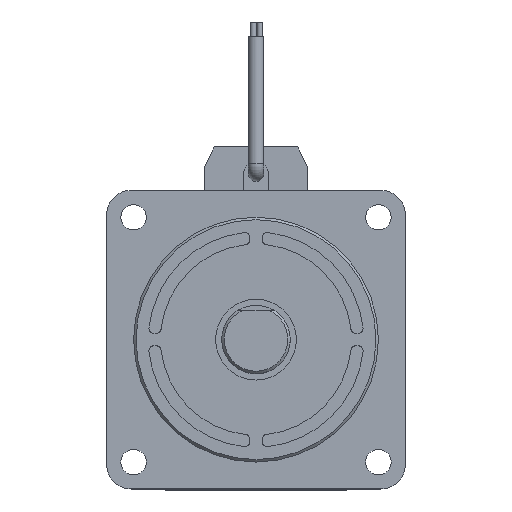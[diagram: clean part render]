
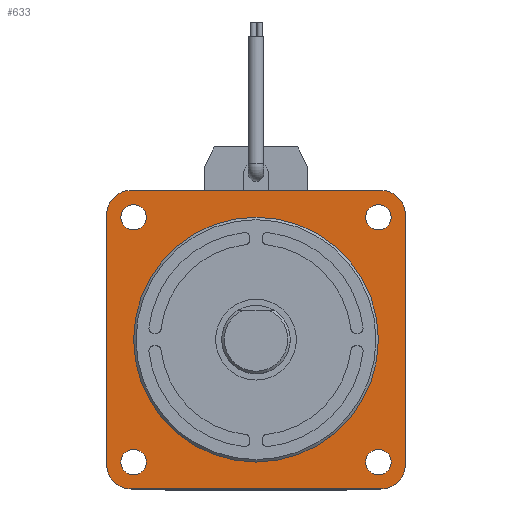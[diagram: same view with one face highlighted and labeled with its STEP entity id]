
A CAD part, top view. The second image highlights one B-rep face of the part: STEP entity #633.
In plain terms, the highlighted planar face has unit normal (0, 0, 1).
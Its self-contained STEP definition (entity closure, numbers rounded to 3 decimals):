
#136=FACE_BOUND('',#1144,.T.);
#137=FACE_BOUND('',#1145,.T.);
#138=FACE_BOUND('',#1146,.T.);
#139=FACE_BOUND('',#1147,.T.);
#140=FACE_BOUND('',#1148,.T.);
#141=FACE_BOUND('',#1149,.T.);
#417=CIRCLE('',#4051,5.);
#418=CIRCLE('',#4053,5.);
#419=CIRCLE('',#4055,5.);
#420=CIRCLE('',#4057,5.);
#421=CIRCLE('',#4059,2.6);
#422=CIRCLE('',#4060,2.6);
#423=CIRCLE('',#4061,2.6);
#424=CIRCLE('',#4062,2.6);
#425=CIRCLE('',#4063,25.);
#633=ADVANCED_FACE('',(#136,#137,#138,#139,#140,#141),#793,.T.);
#793=PLANE('',#4064);
#1144=EDGE_LOOP('',(#1904));
#1145=EDGE_LOOP('',(#1905));
#1146=EDGE_LOOP('',(#1906));
#1147=EDGE_LOOP('',(#1907));
#1148=EDGE_LOOP('',(#1908));
#1149=EDGE_LOOP('',(#1909,#1910,#1911,#1912,#1913,#1914,#1915,#1916));
#1904=ORIENTED_EDGE('',*,*,#2996,.F.);
#1905=ORIENTED_EDGE('',*,*,#2997,.F.);
#1906=ORIENTED_EDGE('',*,*,#2998,.F.);
#1907=ORIENTED_EDGE('',*,*,#2999,.F.);
#1908=ORIENTED_EDGE('',*,*,#3000,.F.);
#1909=ORIENTED_EDGE('',*,*,#2934,.T.);
#1910=ORIENTED_EDGE('',*,*,#2992,.T.);
#1911=ORIENTED_EDGE('',*,*,#2950,.T.);
#1912=ORIENTED_EDGE('',*,*,#2993,.T.);
#1913=ORIENTED_EDGE('',*,*,#2965,.T.);
#1914=ORIENTED_EDGE('',*,*,#2994,.T.);
#1915=ORIENTED_EDGE('',*,*,#2980,.T.);
#1916=ORIENTED_EDGE('',*,*,#2995,.T.);
#2493=VERTEX_POINT('',#5939);
#2494=VERTEX_POINT('',#5941);
#2502=VERTEX_POINT('',#5970);
#2503=VERTEX_POINT('',#5972);
#2510=VERTEX_POINT('',#5999);
#2511=VERTEX_POINT('',#6001);
#2518=VERTEX_POINT('',#6028);
#2519=VERTEX_POINT('',#6030);
#2524=VERTEX_POINT('',#6062);
#2525=VERTEX_POINT('',#6064);
#2526=VERTEX_POINT('',#6066);
#2527=VERTEX_POINT('',#6068);
#2528=VERTEX_POINT('',#6070);
#2934=EDGE_CURVE('',#2494,#2493,#3369,.T.);
#2950=EDGE_CURVE('',#2503,#2502,#3382,.T.);
#2965=EDGE_CURVE('',#2511,#2510,#3394,.T.);
#2980=EDGE_CURVE('',#2519,#2518,#3406,.T.);
#2992=EDGE_CURVE('',#2493,#2503,#417,.T.);
#2993=EDGE_CURVE('',#2502,#2511,#418,.T.);
#2994=EDGE_CURVE('',#2510,#2519,#419,.T.);
#2995=EDGE_CURVE('',#2518,#2494,#420,.T.);
#2996=EDGE_CURVE('',#2524,#2524,#421,.T.);
#2997=EDGE_CURVE('',#2525,#2525,#422,.T.);
#2998=EDGE_CURVE('',#2526,#2526,#423,.T.);
#2999=EDGE_CURVE('',#2527,#2527,#424,.T.);
#3000=EDGE_CURVE('',#2528,#2528,#425,.T.);
#3369=LINE('',#5940,#3685);
#3382=LINE('',#5971,#3698);
#3394=LINE('',#6000,#3710);
#3406=LINE('',#6029,#3722);
#3685=VECTOR('',#4773,1.);
#3698=VECTOR('',#4804,1.);
#3710=VECTOR('',#4834,1.);
#3722=VECTOR('',#4864,1.);
#4051=AXIS2_PLACEMENT_3D('',#6053,#4893,#4894);
#4053=AXIS2_PLACEMENT_3D('',#6055,#4897,#4898);
#4055=AXIS2_PLACEMENT_3D('',#6057,#4901,#4902);
#4057=AXIS2_PLACEMENT_3D('',#6059,#4905,#4906);
#4059=AXIS2_PLACEMENT_3D('',#6061,#4909,#4910);
#4060=AXIS2_PLACEMENT_3D('',#6063,#4911,#4912);
#4061=AXIS2_PLACEMENT_3D('',#6065,#4913,#4914);
#4062=AXIS2_PLACEMENT_3D('',#6067,#4915,#4916);
#4063=AXIS2_PLACEMENT_3D('',#6069,#4917,#4918);
#4064=AXIS2_PLACEMENT_3D('',#6071,#4919,#4920);
#4773=DIRECTION('',(0.,-1.,0.));
#4804=DIRECTION('',(1.,0.,0.));
#4834=DIRECTION('',(0.,1.,0.));
#4864=DIRECTION('',(-1.,0.,0.));
#4893=DIRECTION('',(0.,0.,1.));
#4894=DIRECTION('',(0.,-1.,0.));
#4897=DIRECTION('',(0.,0.,1.));
#4898=DIRECTION('',(0.,-1.,0.));
#4901=DIRECTION('',(0.,0.,1.));
#4902=DIRECTION('',(0.,-1.,0.));
#4905=DIRECTION('',(0.,0.,1.));
#4906=DIRECTION('',(0.,-1.,0.));
#4909=DIRECTION('',(0.,0.,1.));
#4910=DIRECTION('',(0.,1.,0.));
#4911=DIRECTION('',(0.,0.,1.));
#4912=DIRECTION('',(0.,1.,0.));
#4913=DIRECTION('',(0.,0.,1.));
#4914=DIRECTION('',(0.,1.,0.));
#4915=DIRECTION('',(0.,0.,1.));
#4916=DIRECTION('',(0.,1.,0.));
#4917=DIRECTION('',(0.,0.,1.));
#4918=DIRECTION('',(0.,-1.,0.));
#4919=DIRECTION('',(0.,0.,1.));
#4920=DIRECTION('',(1.,0.,0.));
#5939=CARTESIAN_POINT('',(-30.5,-25.5,120.));
#5940=CARTESIAN_POINT('',(-30.5,25.5,120.));
#5941=CARTESIAN_POINT('',(-30.5,25.5,120.));
#5970=CARTESIAN_POINT('',(25.5,-30.5,120.));
#5971=CARTESIAN_POINT('',(-25.5,-30.5,120.));
#5972=CARTESIAN_POINT('',(-25.5,-30.5,120.));
#5999=CARTESIAN_POINT('',(30.5,25.5,120.));
#6000=CARTESIAN_POINT('',(30.5,-25.5,120.));
#6001=CARTESIAN_POINT('',(30.5,-25.5,120.));
#6028=CARTESIAN_POINT('',(-25.5,30.5,120.));
#6029=CARTESIAN_POINT('',(25.5,30.5,120.));
#6030=CARTESIAN_POINT('',(25.5,30.5,120.));
#6053=CARTESIAN_POINT('',(-25.5,-25.5,120.));
#6055=CARTESIAN_POINT('',(25.5,-25.5,120.));
#6057=CARTESIAN_POINT('',(25.5,25.5,120.));
#6059=CARTESIAN_POINT('',(-25.5,25.5,120.));
#6061=CARTESIAN_POINT('',(-25.,-25.,120.));
#6062=CARTESIAN_POINT('',(-25.,-22.4,120.));
#6063=CARTESIAN_POINT('',(-25.,25.,120.));
#6064=CARTESIAN_POINT('',(-25.,27.6,120.));
#6065=CARTESIAN_POINT('',(25.,-25.,120.));
#6066=CARTESIAN_POINT('',(25.,-22.4,120.));
#6067=CARTESIAN_POINT('',(25.,25.,120.));
#6068=CARTESIAN_POINT('',(25.,27.6,120.));
#6069=CARTESIAN_POINT('',(0.,0.,120.));
#6070=CARTESIAN_POINT('',(0.,-25.,120.));
#6071=CARTESIAN_POINT('',(-25.5,-25.5,120.));
